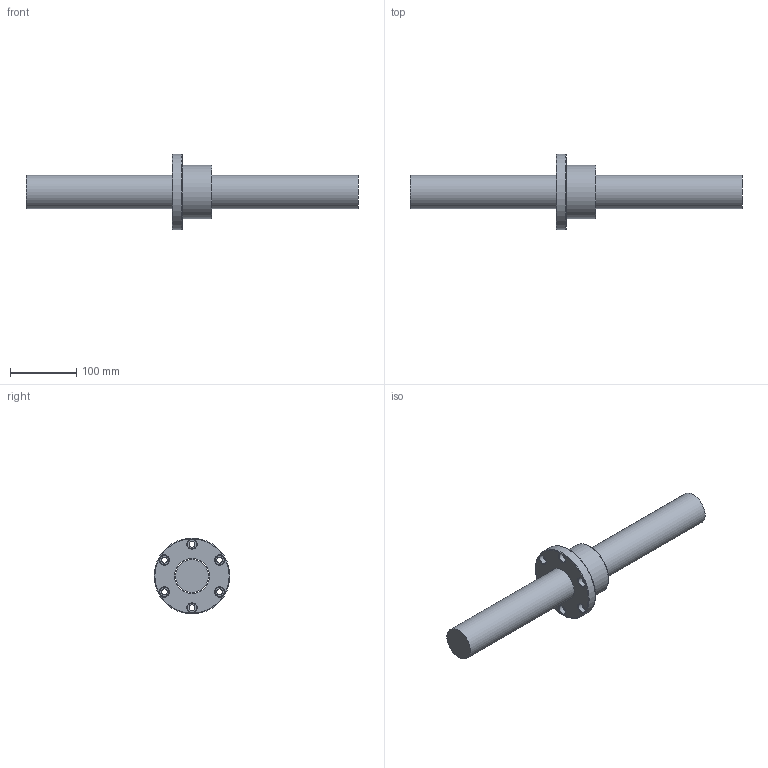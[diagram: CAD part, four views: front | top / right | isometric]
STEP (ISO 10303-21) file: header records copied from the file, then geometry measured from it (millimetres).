
FILE_DESCRIPTION (( 'STEP AP203' ), '1' );
FILE_NAME ('SFV05005N-4.8.step', '2024-05-20T03:39:57', ( '' ), ( '' ), 'SwSTEP 2.0', 'SolidWorks 2022', '' );
FILE_SCHEMA (( 'CONFIG_CONTROL_DESIGN' ));
Length unit declared in the file: millimetre
Products named in the file (1): SFV05005N-4.8
Bounding box: 500 x 114 x 114 mm (x, y, z)
Volume: 1221536.5 mm3; surface area: 127626.8 mm2
Topology: 2 solids, 2 shells, 57 faces, 130 edges, 84 vertices
Faces by surface type: cylinder 24, cone 13, plane 12, bspline 5, torus 3
Full cylindrical faces by diameter (mm): 4 x1, 7 x6, 9 x6, 14 x6, 50 x1, 52.2 x1, 80 x1, 114 x1
Entity records: 3657 total; most frequent: CARTESIAN_POINT 2652, DIRECTION 194, ORIENTED_EDGE 130, EDGE_LOOP 108, AXIS2_PLACEMENT_3D 96, FACE_OUTER_BOUND 72, EDGE_CURVE 65, VERTEX_POINT 61
